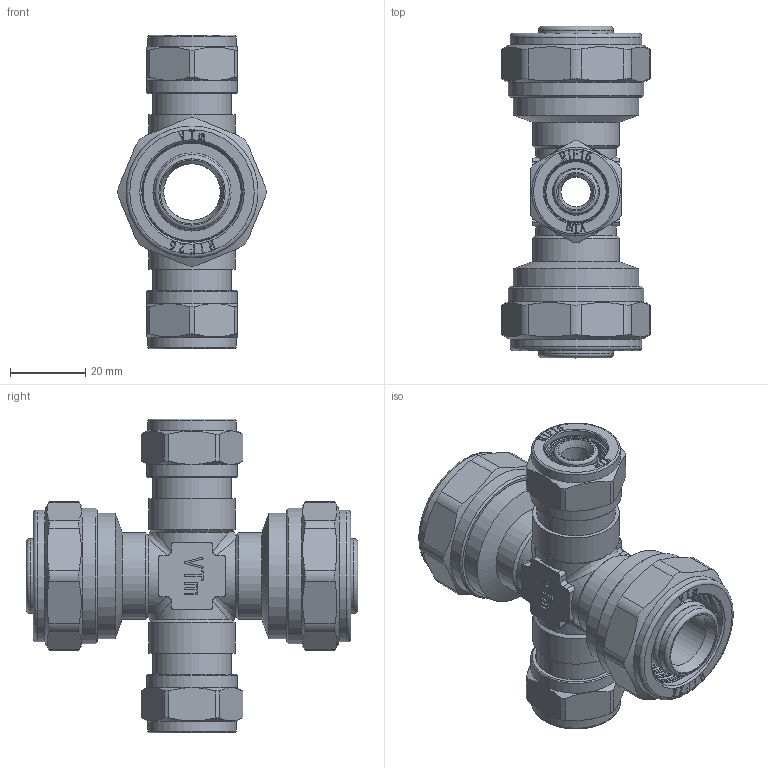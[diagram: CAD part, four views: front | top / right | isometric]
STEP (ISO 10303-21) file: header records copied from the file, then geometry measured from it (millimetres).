
FILE_DESCRIPTION(('STEP AP203'), '1');
FILE_NAME('VTm.341.N.261626', '', ('UNSPECIFIED'), ('UNSPECIFIED'), 'C3D Converter', 'C3D Toolkit', '');
FILE_SCHEMA(('CONFIG_CONTROL_DESIGN'));
Length unit declared in the file: millimetre
Products named in the file (1): ВР.302635.089.000 СБ
Bounding box: 39.39 x 88 x 83.21 mm (x, y, z)
Volume: 57184.9 mm3; surface area: 38976.7 mm2
Topology: 3 solids, 3 shells, 1327 faces, 3610 edges, 2379 vertices
Faces by surface type: extrusion 546, plane 440, cylinder 161, torus 112, cone 64, bspline 4
Full cylindrical faces by diameter (mm): 8 x2, 11.8 x8, 12.4 x2, 15 x1, 16.2 x2, 16.7 x2, 17.4 x8, 18.632 x2, 19.8 x10, 20 x2, 20.955 x2, 23 x4, 23.5 x2, 24 x2, 26.2 x2, 26.7 x2, 30.292 x2, 33.249 x2, 35 x2, 36 x2
Entity records: 48714 total; most frequent: CARTESIAN_POINT 18438, ORIENTED_EDGE 6914, DIRECTION 4466, EDGE_CURVE 3457, VERTEX_POINT 2379, VECTOR 2076, B_SPLINE_CURVE_WITH_KNOTS 1976, EDGE_LOOP 1576
